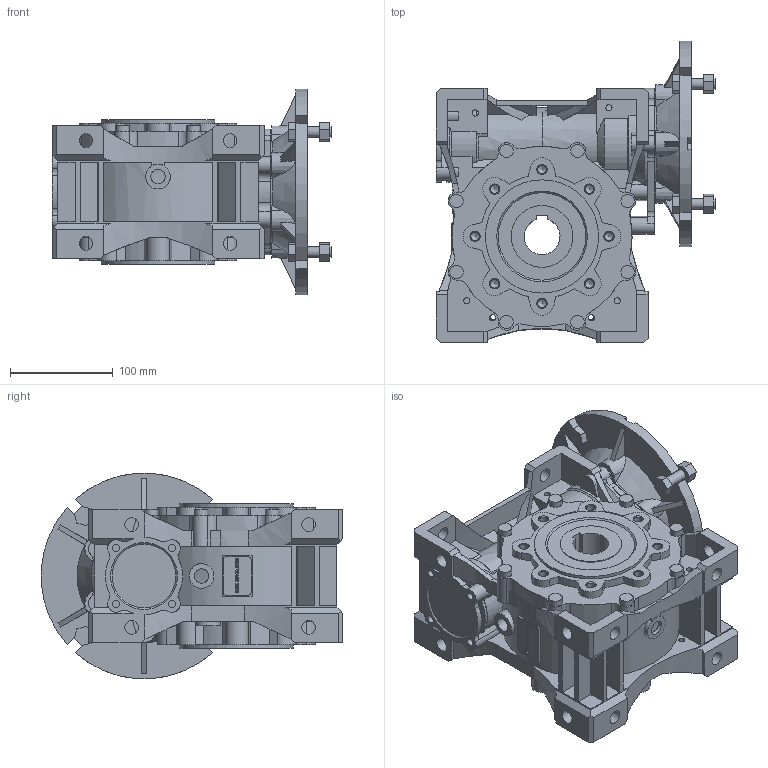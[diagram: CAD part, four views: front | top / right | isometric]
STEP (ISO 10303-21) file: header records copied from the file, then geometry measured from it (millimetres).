
FILE_DESCRIPTION(/* description */ ('STEP AP214'),/* implementation_level */ '2;1');
FILE_NAME(/* name */ 'NMRVP 090 200x19 35 NO NO - - NO - - - NO NO - ---(---------------)',/* time_stamp */ '2024-09-30T12:28:41+02:00',/* author */ ('License CC BY-ND 4.0'),/* organization */ ('CADENAS'),/* preprocessor_version */ 'ST-DEVELOPER v19.3',/* originating_system */ 'PARTsolutions',/* authorisation */ ' ');
FILE_SCHEMA (('AUTOMOTIVE_DESIGN {1 0 10303 214 3 1 1}'));
Length unit declared in the file: millimetre
Products named in the file (6): NMRVP 090 200x19 35 NO NO - - NO - - - NO NO - ---(---------------); W.090.01.M; 090-35 (140); W.090.14.19.M-p; 9080 B5; 90-50
Assembly tree (5 placements, depth 2):
  NMRVP 090 200x19 35 NO NO - - NO - - - NO NO - ---(---------------)
    W.090.01.M
    090-35 (140)
    W.090.14.19.M-p
    9080 B5
    90-50
Bounding box: 272 x 292.67 x 199.96 mm (x, y, z)
Volume: 4540170.9 mm3; surface area: 570268 mm2
Topology: 5 solids, 7 shells, 1617 faces, 4415 edges, 2925 vertices
Faces by surface type: plane 902, cylinder 622, cone 91, torus 2
Full cylindrical faces by diameter (mm): 6 x12, 7.45 x12, 8.376 x16, 10 x8, 13 x8, 13.4 x14, 14 x4, 24 x2, 29 x1, 31 x1, 45 x1, 50 x3, 58 x1, 60 x1, 75 x2, 79 x1, 90 x2, 110 x2, 130 x1
Entity records: 62194 total; most frequent: CARTESIAN_POINT 9885, DIRECTION 8612, ORIENTED_EDGE 8460, EDGE_CURVE 4230, AXIS2_PLACEMENT_3D 3063, VERTEX_POINT 2892, LINE 2486, VECTOR 2486
